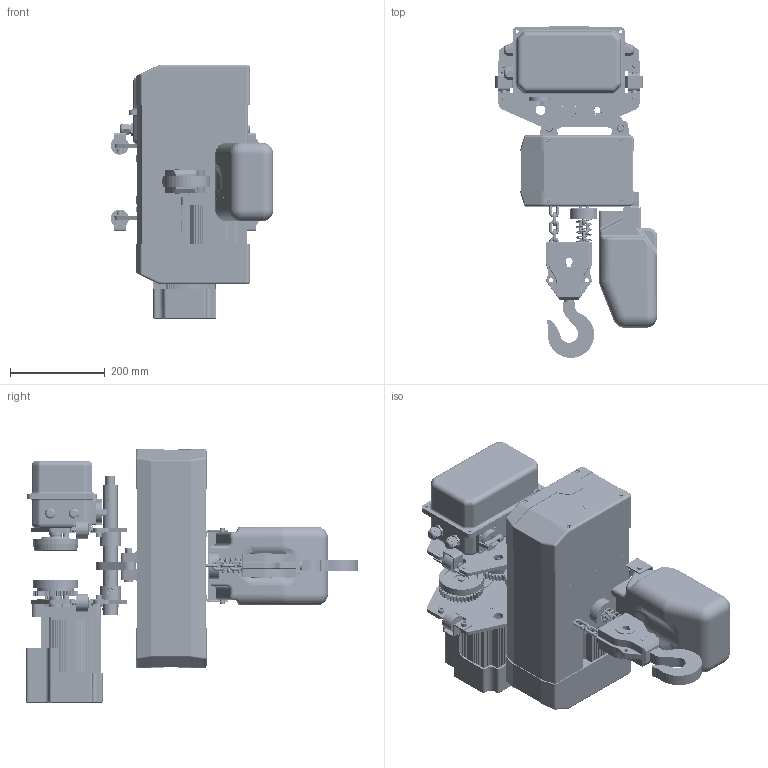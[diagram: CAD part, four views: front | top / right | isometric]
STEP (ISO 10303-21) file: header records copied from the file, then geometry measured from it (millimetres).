
FILE_DESCRIPTION(/* description */ ('CAx-IF Rec.Pracs.---Representation and Presentation of Product Manufacturing Information (PMI)---4.0---2014-10-13','CAx-IF Rec.Pracs.---3D Tessellated Geometry---0.4---2014-09-14','2;1'),/* implementation_level */ '2;1');
FILE_NAME(/* name */ 'YJ 01-02 运行式',/* time_stamp */ '2026-06-03T16:13:20+08:00',/* author */ (''),/* organization */ (''),/* preprocessor_version */ 'ST-DEVELOPER v16.7',/* originating_system */ $,/* authorisation */ $);
FILE_SCHEMA (('AP242_MANAGED_MODEL_BASED_3D_ENGINEERING_MIM_LF { 1 0 10303 442 20130219 1 4 }'));
Products named in the file (1): YJ 01-02 运行式
Bounding box: 342.42 x 700.24 x 536 mm (x, y, z)
Volume: 17351392.3 mm3; surface area: 2277975.5 mm2
Topology: 25 solids, 42 shells, 4922 faces, 12437 edges, 7714 vertices
Faces by surface type: plane 2015, cylinder 1331, bspline 1008, torus 249, cone 229, sphere 90
Full cylindrical faces by diameter (mm): 2.14 x1, 4 x2, 4.2 x4, 4.826 x4, 5.326 x2, 5.795 x6, 6 x6, 6.2 x3, 6.3 x4, 6.4 x4, 6.5 x2, 6.6 x8, 6.8 x8, 7.46 x2, 7.76 x12, 8.5 x4, 8.9 x8, 9 x7, 9.045 x2, 9.732 x12, 9.9 x8, 10 x6, 10.2 x8, 10.5 x4, 11.5 x4, 12.8 x4, 13 x8, 13.3 x4, 14 x3, 14.6 x4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
Entity records: 168279 total; most frequent: CARTESIAN_POINT 58032, ORIENTED_EDGE 23460, DIRECTION 20539, EDGE_CURVE 11730, VERTEX_POINT 7536, AXIS2_PLACEMENT_3D 7266, LINE 6023, VECTOR 6023
